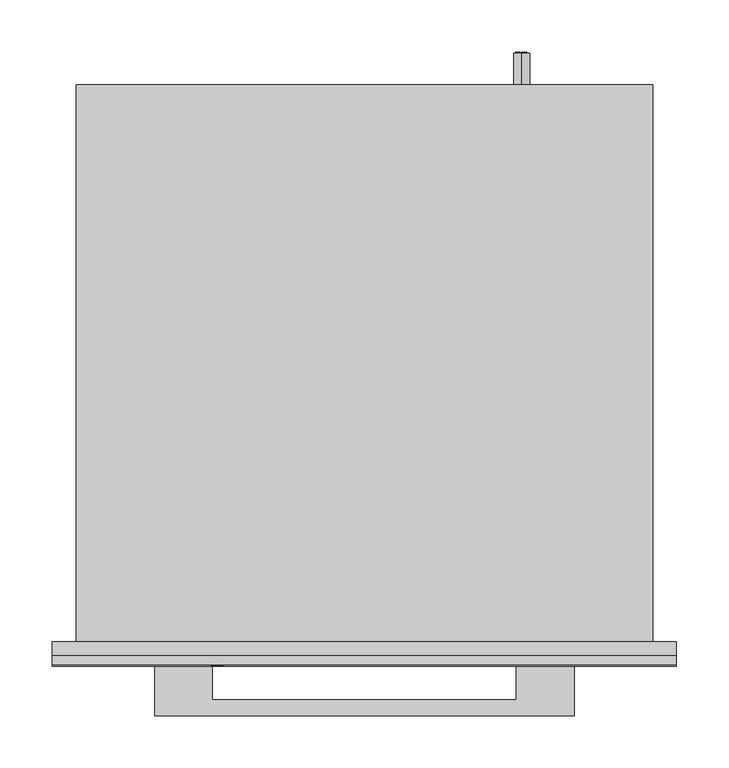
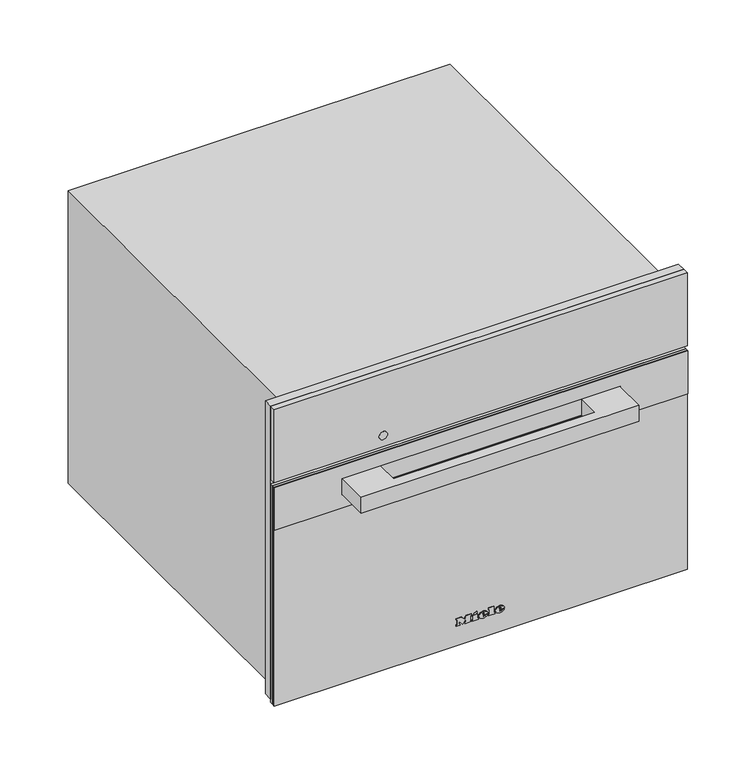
"""IFC4 building model written with IfcOpenShell, lengths in millimetres: proxy geometry, 11138050_NER_DGM7440_EDST-CLST : 23744044_NER_11138050_DGM7440_EDST-CLST."""

from ifc_helpers import new_model, si_unit, point, frame, frame_2d, origin, place, context, project, spatial, polyline, circle_curve, ellipse_curve, trimmed, segment, composite_curve, outline, extrude, faceted_brep, source, transform, mapped, element, save
from ifc_brep_helpers import plane_surface, cylinder_surface, revolved_surface, extruded_surface, advanced_brep


def specialty_equipment_aa509b27(model_context):
    return source(origin(), model_context, "Body", "SolidModel", [
        extrude(outline(polyline([(455.0, 297.5), (455.0, -297.5), (9.0, -297.5), (9.0, -272.5), (344.0, -272.5), (344.0, 272.5), (9.0, 272.5), (9.0, 297.5), (455.0, 297.5)])), frame((0.0, -13.0, 0.0), z_axis=(0.0, 1.0, 0.0), x_axis=(0.0, 0.0, 1.0)), (0.0, 0.0, 1.0), 13.0),
        advanced_brep(
        [(150.0, 561.0, 410.5), (150.0, 561.0, 395.5), (144.4098301, 561.0, 398.0), (148.5, 561.0, 398.0), (148.5, 561.0, 408.0), (147.4955303, 561.0, 408.0), (147.4955303, 561.0, 399.0), (144.0315043, 561.0, 399.0), (144.0315043, 561.0, 398.4582978), (155.0, 561.0, 398.0), (155.0, 561.0, 408.0), (150.0, 561.0, 408.0), (150.0, 561.0, 407.0), (154.0, 561.0, 407.0), (154.0, 561.0, 403.5), (151.0, 561.0, 403.5), (151.0, 561.0, 402.5), (154.0, 561.0, 402.5), (154.0, 561.0, 399.0), (150.0, 561.0, 399.0), (150.0, 561.0, 398.0), (150.0, 531.0, 395.5), (150.0, 531.0, 410.5), (155.0, 562.0, 408.0), (155.0, 562.0, 398.0), (150.0, 562.0, 398.0), (150.0, 562.0, 399.0), (154.0, 562.0, 399.0), (154.0, 562.0, 402.5), (151.0, 562.0, 402.5), (151.0, 562.0, 403.5), (154.0, 562.0, 403.5), (154.0, 562.0, 407.0), (150.0, 562.0, 407.0), (150.0, 562.0, 408.0), (148.5, 562.0, 398.0), (144.0315043, 562.0, 398.0), (144.0315043, 562.0, 399.0), (147.4955303, 562.0, 399.0), (147.4955303, 562.0, 408.0), (148.5, 562.0, 408.0), (144.0315043, 561.0, 398.0)],
        [
            (0, 1, circle_curve(frame((150.0, 561.0, 403.0), z_axis=(0.0, 1.0, 0.0), x_axis=(0.0, 0.0, 1.0)), 7.5)),
            (1, 2, circle_curve(frame((150.0, 561.0, 403.0), z_axis=(0.0, 1.0, 0.0), x_axis=(0.0, 0.0, 1.0)), 7.5)),
            (2, 3),
            (3, 4),
            (4, 5),
            (5, 6),
            (6, 7),
            (7, 8),
            (8, 0, circle_curve(frame((150.0, 561.0, 403.0), z_axis=(0.0, 1.0, 0.0), x_axis=(0.0, 0.0, 1.0)), 7.5)),
            (9, 10),
            (10, 11),
            (11, 12),
            (12, 13),
            (13, 14),
            (14, 15),
            (15, 16),
            (16, 17),
            (17, 18),
            (18, 19),
            (19, 20),
            (20, 9),
            (21, 22, circle_curve(frame((150.0, 531.0, 403.0), z_axis=(0.0, -1.0, 0.0), x_axis=(0.0, 0.0, 1.0)), 7.5)),
            (22, 21, circle_curve(frame((150.0, 531.0, 403.0), z_axis=(0.0, -1.0, 0.0), x_axis=(0.0, 0.0, 1.0)), 7.5)),
            (0, 22),
            (21, 1),
            (8, 2, circle_curve(frame((150.0, 561.0, 403.0), z_axis=(0.0, -1.0, 0.0), x_axis=(0.0, 0.0, 1.0)), 7.5)),
            (23, 24),
            (24, 25),
            (25, 26),
            (26, 27),
            (27, 28),
            (28, 29),
            (29, 30),
            (30, 31),
            (31, 32),
            (32, 33),
            (33, 34),
            (34, 23),
            (35, 36),
            (36, 37),
            (37, 38),
            (38, 39),
            (39, 40),
            (40, 35),
            (8, 41),
            (41, 2),
            (23, 10),
            (9, 24),
            (20, 25),
            (19, 26),
            (18, 27),
            (17, 28),
            (16, 29),
            (15, 30),
            (14, 31),
            (13, 32),
            (12, 33),
            (11, 34),
            (35, 3),
            (41, 36),
            (7, 37),
            (6, 38),
            (5, 39),
            (4, 40),
        ],
        [
            plane_surface(frame((150.0, 561.0, 410.5), z_axis=(0.0, 1.0, 0.0), x_axis=(1.0, 0.0, 0.0))),
            plane_surface(frame((150.0, 531.0, 410.5), z_axis=(0.0, -1.0, 0.0), x_axis=(-1.0, 0.0, 0.0))),
            cylinder_surface(frame((150.0, 561.0, 403.0), z_axis=(0.0, -1.0, 0.0), x_axis=(0.0, 0.0, 1.0)), 7.5),
            plane_surface(frame((155.0, 562.0, 408.0), z_axis=(0.0, 1.0, 0.0), x_axis=(0.0, 0.0, -1.0))),
            plane_surface(frame((155.0, 561.0, 408.0), z_axis=(0.0, -1.0, 0.0), x_axis=(0.0, 0.0, 1.0))),
            plane_surface(frame((155.0, 562.0, 408.0), z_axis=(1.0, 0.0, 0.0), x_axis=(0.0, -1.0, 0.0))),
            plane_surface(frame((155.0, 562.0, 398.0), z_axis=(0.0, 0.0, -1.0), x_axis=(0.0, -1.0, 0.0))),
            plane_surface(frame((150.0, 562.0, 398.0), z_axis=(-1.0, 0.0, 0.0), x_axis=(0.0, -1.0, 0.0))),
            plane_surface(frame((150.0, 562.0, 399.0), z_axis=(0.0, 0.0, 1.0), x_axis=(0.0, -1.0, 0.0))),
            plane_surface(frame((154.0, 562.0, 399.0), z_axis=(-1.0, 0.0, 0.0), x_axis=(0.0, -1.0, 0.0))),
            plane_surface(frame((154.0, 562.0, 402.5), z_axis=(0.0, 0.0, -1.0), x_axis=(0.0, -1.0, 0.0))),
            plane_surface(frame((151.0, 562.0, 402.5), z_axis=(-1.0, 0.0, 0.0), x_axis=(0.0, -1.0, 0.0))),
            plane_surface(frame((151.0, 562.0, 403.5), z_axis=(0.0, 0.0, 1.0), x_axis=(0.0, -1.0, 0.0))),
            plane_surface(frame((154.0, 562.0, 403.5), z_axis=(-1.0, 0.0, 0.0), x_axis=(0.0, -1.0, 0.0))),
            plane_surface(frame((154.0, 562.0, 407.0), z_axis=(0.0, 0.0, -1.0), x_axis=(0.0, -1.0, 0.0))),
            plane_surface(frame((150.0, 562.0, 407.0), z_axis=(-1.0, 0.0, 0.0), x_axis=(0.0, -1.0, 0.0))),
            plane_surface(frame((150.0, 562.0, 408.0), z_axis=(0.0, 0.0, 1.0), x_axis=(0.0, -1.0, 0.0))),
            plane_surface(frame((148.5, 562.0, 398.0), z_axis=(0.0, 0.0, -1.0), x_axis=(0.0, -1.0, 0.0))),
            plane_surface(frame((144.0315043, 562.0, 398.0), z_axis=(-1.0, 0.0, 0.0), x_axis=(0.0, -1.0, 0.0))),
            plane_surface(frame((144.0315043, 562.0, 399.0), z_axis=(0.0, 0.0, 1.0), x_axis=(0.0, -1.0, 0.0))),
            plane_surface(frame((147.4955303, 562.0, 399.0), z_axis=(-1.0, 0.0, 0.0), x_axis=(0.0, -1.0, 0.0))),
            plane_surface(frame((147.4955303, 562.0, 408.0), z_axis=(0.0, 0.0, 1.0), x_axis=(0.0, -1.0, 0.0))),
            plane_surface(frame((148.5, 562.0, 408.0), z_axis=(1.0, 0.0, 0.0), x_axis=(0.0, -1.0, 0.0))),
        ],
        [
            (0, [[1, 2, 3, 4, 5, 6, 7, 8, 9], [10, 11, 12, 13, 14, 15, 16, 17, 18, 19, 20, 21]]),
            (1, [[22, 23]]),
            (2, [[-1, 24, -22, 25]]),
            (2, [[-23, -24, -9, 26, -2, -25]]),
            (3, [[27, 28, 29, 30, 31, 32, 33, 34, 35, 36, 37, 38]]),
            (3, [[39, 40, 41, 42, 43, 44]]),
            (4, [[45, 46, -26]]),
            (5, [[-27, 47, -10, 48]]),
            (6, [[-28, -48, -21, 49]]),
            (7, [[-29, -49, -20, 50]]),
            (8, [[-30, -50, -19, 51]]),
            (9, [[-31, -51, -18, 52]]),
            (10, [[-32, -52, -17, 53]]),
            (11, [[-33, -53, -16, 54]]),
            (12, [[-34, -54, -15, 55]]),
            (13, [[-35, -55, -14, 56]]),
            (14, [[-36, -56, -13, 57]]),
            (15, [[-37, -57, -12, 58]]),
            (16, [[-38, -58, -11, -47]]),
            (17, [[-39, 59, -3, -46, 60]]),
            (18, [[-40, -60, -45, -8, 61]]),
            (19, [[-41, -61, -7, 62]]),
            (20, [[-42, -62, -6, 63]]),
            (21, [[-43, -63, -5, 64]]),
            (22, [[-44, -64, -4, -59]]),
        ],
    ),
        faceted_brep([(275.0, 531.0, 445.0), (275.0, 531.0, 0.0), (-275.0, 531.0, 0.0), (-275.0, 531.0, 445.0), (275.0, 0.0, 445.0), (-275.0, 0.0, 445.0), (-275.0, 0.0, 0.0), (275.0, 0.0, 0.0), (-272.5, 0.0, 344.0), (272.5, 0.0, 344.0), (272.5, 0.0, 8.0), (-272.5, 0.0, 8.0), (272.5, 12.0, 344.0), (-272.5, 12.0, 344.0), (-272.5, 12.0, 8.0), (272.5, 12.0, 8.0), (161.0, 12.0, 286.0), (161.0, 12.0, 58.0), (-220.0, 12.0, 58.0), (-220.0, 12.0, 286.0), (161.0, 419.0, 286.0), (-220.0, 419.0, 286.0), (-220.0, 419.0, 58.0), (161.0, 419.0, 58.0)], [[[0, 1, 2, 3]], [[4, 5, 6, 7], [8, 9, 10, 11]], [[0, 3, 5, 4]], [[3, 2, 6, 5]], [[2, 1, 7, 6]], [[1, 0, 4, 7]], [[12, 13, 14, 15], [16, 17, 18, 19]], [[13, 12, 9, 8]], [[14, 13, 8, 11]], [[15, 14, 11, 10]], [[12, 15, 10, 9]], [[20, 21, 22, 23]], [[20, 23, 17, 16]], [[23, 22, 18, 17]], [[22, 21, 19, 18]], [[21, 20, 16, 19]]]),
        advanced_brep(
        [(26.2998, -23.0, 36.7018), (26.2998, -23.0, 37.8532), (33.9264, -23.0, 37.8532), (20.6568, -23.0, 37.8532), (23.7918, -23.0, 34.0), (33.7326, -23.0, 36.7018), (30.2898, -23.0, 36.7018), (27.5766, -23.0, 35.425), (26.2998, -23.0, 39.3124), (26.2998, -23.0, 40.555), (28.2492, -23.0, 40.555), (28.2492, -23.0, 39.3124), (26.2998, -22.0, 36.7018), (27.5766, -22.0, 35.425), (30.2898, -22.0, 36.7018), (33.7326, -22.0, 36.7018), (23.7918, -22.0, 34.0), (20.6568, -22.0, 37.8532), (33.9264, -22.0, 37.8532), (26.2998, -22.0, 37.8532), (26.2998, -22.0, 39.3124), (28.2492, -22.0, 39.3124), (28.2492, -22.0, 40.555), (26.2998, -22.0, 40.555)],
        [
            (0, 1),
            (1, 2),
            (2, 3, ellipse_curve(frame((27.2916, -23.0, 37.8532), z_axis=(0.0, -1.0, 0.0), x_axis=(-1.0, 0.0, 0.0)), 6.6348, 5.4834)),
            (3, 4, circle_curve(frame((25.0686622, -23.0, 38.2408), z_axis=(0.0, -1.0, 0.0), x_axis=(0.0, 0.0, -1.0)), 4.4288556)),
            (4, 5, circle_curve(frame((27.1587808, -23.0, 41.2504), z_axis=(0.0, -1.0, 0.0), x_axis=(0.0, 0.0, -1.0)), 7.9940516)),
            (5, 6),
            (6, 7, circle_curve(frame((28.1338588, -23.0, 37.762), z_axis=(0.0, 1.0, 0.0), x_axis=(0.0, 0.0, -1.0)), 2.4025208)),
            (7, 0, circle_curve(frame((27.5766, -23.0, 36.7018), z_axis=(0.0, 1.0, 0.0), x_axis=(0.0, 0.0, -1.0)), 1.2768)),
            (8, 9),
            (9, 10, circle_curve(frame((27.2745, -23.0, 40.555), z_axis=(0.0, 1.0, 0.0), x_axis=(0.0, 0.0, -1.0)), 0.9747)),
            (10, 11),
            (11, 8),
            (12, 13, circle_curve(frame((27.5766, -22.0, 36.7018), z_axis=(0.0, -1.0, 0.0), x_axis=(0.0, 0.0, -1.0)), 1.2768)),
            (13, 14, circle_curve(frame((28.1338588, -22.0, 37.762), z_axis=(0.0, -1.0, 0.0), x_axis=(0.0, 0.0, -1.0)), 2.4025208)),
            (14, 15),
            (15, 16, circle_curve(frame((27.1587808, -22.0, 41.2504), z_axis=(0.0, 1.0, 0.0), x_axis=(0.0, 0.0, -1.0)), 7.9940516)),
            (16, 17, circle_curve(frame((25.0686622, -22.0, 38.2408), z_axis=(0.0, 1.0, 0.0), x_axis=(0.0, 0.0, -1.0)), 4.4288556)),
            (17, 18, ellipse_curve(frame((27.2916, -22.0, 37.8532), z_axis=(0.0, 1.0, 0.0), x_axis=(-1.0, 0.0, 0.0)), 6.6348, 5.4834)),
            (18, 19),
            (19, 12),
            (20, 21),
            (21, 22),
            (22, 23, circle_curve(frame((27.2745, -22.0, 40.555), z_axis=(0.0, -1.0, 0.0), x_axis=(0.0, 0.0, -1.0)), 0.9747)),
            (23, 20),
            (0, 12),
            (19, 1),
            (18, 2),
            (5, 15),
            (14, 6),
            (17, 3),
            (13, 7),
            (16, 4),
            (8, 20),
            (23, 9),
            (22, 10),
            (21, 11),
        ],
        [
            plane_surface(frame((26.2998, -23.0, 37.8532), z_axis=(0.0, -1.0, 0.0), x_axis=(0.0, 0.0, 1.0))),
            plane_surface(frame((26.2998, -22.0, 37.8532), z_axis=(0.0, 1.0, 0.0), x_axis=(0.0, 0.0, -1.0))),
            plane_surface(frame((26.2998, -23.0, 36.7018), z_axis=(1.0, 0.0, 0.0), x_axis=(0.0, 1.0, 0.0))),
            plane_surface(frame((26.2998, -23.0, 37.8532), z_axis=(0.0, 0.0, -1.0), x_axis=(0.0, 1.0, 0.0))),
            plane_surface(frame((33.7326, -23.0, 36.7018), z_axis=(0.0, 0.0, 1.0), x_axis=(0.0, 1.0, 0.0))),
            extruded_surface(trimmed(ellipse_curve(frame((27.2916, -21.0, 37.8532), z_axis=(0.0, -1.0, 0.0), x_axis=(-1.0, 0.0, 0.0)), 6.6348, 5.4834), [point((33.9264, -21.0, 37.8532))], [point((20.6568, -21.0, 37.8532))], True, "CARTESIAN"), (0.0, -1.0, 0.0), 1.0),
            revolved_surface(polyline([(28.1338588, -22.0, 35.3594792), (28.1338588, -23.0, 35.3594792)]), (28.1338588, -22.0, 37.762), (0.0, 1.0, 0.0)),
            revolved_surface(polyline([(27.5766, -22.0, 35.425), (27.5766, -23.0, 35.425)]), (27.5766, -22.0, 36.7018), (0.0, 1.0, 0.0)),
            cylinder_surface(frame((25.0686622, -22.0, 38.2408), z_axis=(0.0, -1.0, 0.0), x_axis=(0.0, 0.0, -1.0)), 4.4288556),
            cylinder_surface(frame((27.1587808, -22.0, 41.2504), z_axis=(0.0, -1.0, 0.0), x_axis=(0.0, 0.0, -1.0)), 7.9940516),
            plane_surface(frame((26.2998, -23.0, 39.3124), z_axis=(1.0, 0.0, 0.0), x_axis=(0.0, 1.0, 0.0))),
            revolved_surface(polyline([(27.2745, -22.0, 39.5803), (27.2745, -23.0, 39.5803)]), (27.2745, -22.0, 40.555), (0.0, 1.0, 0.0)),
            plane_surface(frame((28.2492, -23.0, 40.555), z_axis=(-1.0, 0.0, 0.0), x_axis=(0.0, 1.0, 0.0))),
            plane_surface(frame((28.2492, -23.0, 39.3124), z_axis=(0.0, 0.0, 1.0), x_axis=(0.0, 1.0, 0.0))),
        ],
        [
            (0, [[1, 2, 3, 4, 5, 6, 7, 8], [9, 10, 11, 12]]),
            (1, [[13, 14, 15, 16, 17, 18, 19, 20], [21, 22, 23, 24]]),
            (2, [[-1, 25, -20, 26]]),
            (3, [[-2, -26, -19, 27]]),
            (4, [[-6, 28, -15, 29]]),
            (5, [[-3, -27, -18, 30]]),
            (6, [[-7, -29, -14, 31]]),
            (7, [[-8, -31, -13, -25]]),
            (8, [[-4, -30, -17, 32]]),
            (9, [[-5, -32, -16, -28]]),
            (10, [[-9, 33, -24, 34]]),
            (11, [[-10, -34, -23, 35]]),
            (12, [[-11, -35, -22, 36]]),
            (13, [[-12, -36, -21, -33]]),
        ],
    ),
        advanced_brep(
        [(2.508, -23.0, 36.7018), (2.508, -23.0, 37.8532), (10.1346, -23.0, 37.8532), (-3.135, -23.0, 37.8532), (0.0, -23.0, 34.0), (9.9408, -23.0, 36.7018), (6.498, -23.0, 36.7018), (3.7848, -23.0, 35.425), (2.508, -23.0, 39.3124), (2.508, -23.0, 40.555), (4.4574, -23.0, 40.555), (4.4574, -23.0, 39.3124), (2.508, -22.0, 36.7018), (3.7848, -22.0, 35.425), (6.498, -22.0, 36.7018), (9.9408, -22.0, 36.7018), (0.0, -22.0, 34.0), (-3.135, -22.0, 37.8532), (10.1346, -22.0, 37.8532), (2.508, -22.0, 37.8532), (2.508, -22.0, 39.3124), (4.4574, -22.0, 39.3124), (4.4574, -22.0, 40.555), (2.508, -22.0, 40.555)],
        [
            (0, 1),
            (1, 2),
            (2, 3, ellipse_curve(frame((3.4998, -23.0, 37.8532), z_axis=(0.0, -1.0, 0.0), x_axis=(-1.0, 0.0, 0.0)), 6.6348, 5.4834)),
            (3, 4, circle_curve(frame((1.2768622, -23.0, 38.2408), z_axis=(0.0, -1.0, 0.0), x_axis=(0.0, 0.0, -1.0)), 4.4288556)),
            (4, 5, circle_curve(frame((3.3669808, -23.0, 41.2504), z_axis=(0.0, -1.0, 0.0), x_axis=(0.0, 0.0, -1.0)), 7.9940516)),
            (5, 6),
            (6, 7, circle_curve(frame((4.3420588, -23.0, 37.762), z_axis=(0.0, 1.0, 0.0), x_axis=(0.0, 0.0, -1.0)), 2.4025208)),
            (7, 0, circle_curve(frame((3.7848, -23.0, 36.7018), z_axis=(0.0, 1.0, 0.0), x_axis=(0.0, 0.0, -1.0)), 1.2768)),
            (8, 9),
            (9, 10, circle_curve(frame((3.4827, -23.0, 40.555), z_axis=(0.0, 1.0, 0.0), x_axis=(0.0, 0.0, -1.0)), 0.9747)),
            (10, 11),
            (11, 8),
            (12, 13, circle_curve(frame((3.7848, -22.0, 36.7018), z_axis=(0.0, -1.0, 0.0), x_axis=(0.0, 0.0, -1.0)), 1.2768)),
            (13, 14, circle_curve(frame((4.3420588, -22.0, 37.762), z_axis=(0.0, -1.0, 0.0), x_axis=(0.0, 0.0, -1.0)), 2.4025208)),
            (14, 15),
            (15, 16, circle_curve(frame((3.3669808, -22.0, 41.2504), z_axis=(0.0, 1.0, 0.0), x_axis=(0.0, 0.0, -1.0)), 7.9940516)),
            (16, 17, circle_curve(frame((1.2768622, -22.0, 38.2408), z_axis=(0.0, 1.0, 0.0), x_axis=(0.0, 0.0, -1.0)), 4.4288556)),
            (17, 18, ellipse_curve(frame((3.4998, -22.0, 37.8532), z_axis=(0.0, 1.0, 0.0), x_axis=(-1.0, 0.0, 0.0)), 6.6348, 5.4834)),
            (18, 19),
            (19, 12),
            (20, 21),
            (21, 22),
            (22, 23, circle_curve(frame((3.4827, -22.0, 40.555), z_axis=(0.0, -1.0, 0.0), x_axis=(0.0, 0.0, -1.0)), 0.9747)),
            (23, 20),
            (0, 12),
            (19, 1),
            (18, 2),
            (5, 15),
            (14, 6),
            (17, 3),
            (13, 7),
            (16, 4),
            (8, 20),
            (23, 9),
            (22, 10),
            (21, 11),
        ],
        [
            plane_surface(frame((2.508, -23.0, 37.8532), z_axis=(0.0, -1.0, 0.0), x_axis=(0.0, 0.0, 1.0))),
            plane_surface(frame((2.508, -22.0, 37.8532), z_axis=(0.0, 1.0, 0.0), x_axis=(0.0, 0.0, -1.0))),
            plane_surface(frame((2.508, -23.0, 36.7018), z_axis=(1.0, 0.0, 0.0), x_axis=(0.0, 1.0, 0.0))),
            plane_surface(frame((2.508, -23.0, 37.8532), z_axis=(0.0, 0.0, -1.0), x_axis=(0.0, 1.0, 0.0))),
            plane_surface(frame((9.9408, -23.0, 36.7018), z_axis=(0.0, 0.0, 1.0), x_axis=(0.0, 1.0, 0.0))),
            extruded_surface(trimmed(ellipse_curve(frame((3.4998, -21.0, 37.8532), z_axis=(0.0, -1.0, 0.0), x_axis=(-1.0, 0.0, 0.0)), 6.6348, 5.4834), [point((10.1346, -21.0, 37.8532))], [point((-3.135, -21.0, 37.8532))], True, "CARTESIAN"), (0.0, -1.0, 0.0), 1.0),
            revolved_surface(polyline([(4.3420588, -22.0, 35.3594792), (4.3420588, -23.0, 35.3594792)]), (4.3420588, -22.0, 37.762), (0.0, 1.0, 0.0)),
            revolved_surface(polyline([(3.7848, -22.0, 35.425), (3.7848, -23.0, 35.425)]), (3.7848, -22.0, 36.7018), (0.0, 1.0, 0.0)),
            cylinder_surface(frame((1.2768622, -22.0, 38.2408), z_axis=(0.0, -1.0, 0.0), x_axis=(0.0, 0.0, -1.0)), 4.4288556),
            cylinder_surface(frame((3.3669808, -22.0, 41.2504), z_axis=(0.0, -1.0, 0.0), x_axis=(0.0, 0.0, -1.0)), 7.9940516),
            plane_surface(frame((2.508, -23.0, 39.3124), z_axis=(1.0, 0.0, 0.0), x_axis=(0.0, 1.0, 0.0))),
            revolved_surface(polyline([(3.4827, -22.0, 39.5803), (3.4827, -23.0, 39.5803)]), (3.4827, -22.0, 40.555), (0.0, 1.0, 0.0)),
            plane_surface(frame((4.4574, -23.0, 40.555), z_axis=(-1.0, 0.0, 0.0), x_axis=(0.0, 1.0, 0.0))),
            plane_surface(frame((4.4574, -23.0, 39.3124), z_axis=(0.0, 0.0, 1.0), x_axis=(0.0, 1.0, 0.0))),
        ],
        [
            (0, [[1, 2, 3, 4, 5, 6, 7, 8], [9, 10, 11, 12]]),
            (1, [[13, 14, 15, 16, 17, 18, 19, 20], [21, 22, 23, 24]]),
            (2, [[-1, 25, -20, 26]]),
            (3, [[-2, -26, -19, 27]]),
            (4, [[-6, 28, -15, 29]]),
            (5, [[-3, -27, -18, 30]]),
            (6, [[-7, -29, -14, 31]]),
            (7, [[-8, -31, -13, -25]]),
            (8, [[-4, -30, -17, 32]]),
            (9, [[-5, -32, -16, -28]]),
            (10, [[-9, 33, -24, 34]]),
            (11, [[-10, -34, -23, 35]]),
            (12, [[-11, -35, -22, 36]]),
            (13, [[-12, -36, -21, -33]]),
        ],
    ),
        extrude(outline(polyline([(44.7274, -9.9522), (42.8806, -9.0858), (44.6818, -5.2212), (46.5286, -6.0762), (44.7274, -9.9522)])), frame((0.0, -23.0, 0.0), z_axis=(0.0, 1.0, 0.0), x_axis=(0.0, 0.0, 1.0)), (0.0, 0.0, 1.0), 1.0),
        extrude(outline(polyline([(42.6298, -12.768), (40.5892, -12.768), (40.5892, -11.4114), (35.9152, -11.4114), (35.9152, -12.768), (34.0, -12.768), (34.0, -3.7734), (35.9152, -3.7734), (35.9152, -5.0958), (42.6298, -5.0958), (42.6298, -12.768)])), frame((0.0, -23.0, 0.0), z_axis=(0.0, 1.0, 0.0), x_axis=(0.0, 0.0, 1.0)), (0.0, 0.0, 1.0), 1.0),
        extrude(outline(polyline([(43.5418, 10.773), (43.5418, 12.141), (35.9152, 12.141), (35.9152, 10.773), (34.0, 10.773), (34.0, 20.0184), (35.9152, 20.0184), (35.9152, 18.6162), (45.4, 18.6162), (45.4, 10.773), (43.5418, 10.773)])), frame((0.0, -23.0, 0.0), z_axis=(0.0, 1.0, 0.0), x_axis=(0.0, 0.0, 1.0)), (0.0, 0.0, 1.0), 1.0),
        extrude(outline(polyline([(43.5418, -35.4882), (43.5418, -34.1088), (35.9152, -34.1088), (35.9152, -35.4882), (34.0, -35.4882), (34.0, -30.4722), (35.9152, -30.4722), (35.9152, -31.8402), (40.7429247, -31.8402), (34.0, -26.7444), (40.9402223, -21.6258), (35.9152, -21.6258), (35.9152, -23.028), (34.0, -23.028), (34.0, -13.9308), (35.9152, -13.9308), (35.9152, -15.3786), (43.5418, -15.3786), (43.5418, -13.9308), (45.4, -13.9308), (45.4, -20.8734), (41.125, -24.2022), (45.4, -27.5424), (45.4, -35.4882), (43.5418, -35.4882)])), frame((0.0, -23.0, 0.0), z_axis=(0.0, 1.0, 0.0), x_axis=(0.0, 0.0, 1.0)), (0.0, 0.0, 1.0), 1.0),
        extrude(outline(polyline([(297.5, -22.0), (-297.5, -22.0), (-297.5, -13.0), (297.5, -13.0), (297.5, -22.0)])), frame((0.0, 0.0, 344.0), z_axis=(0.0, 0.0, 1.0), x_axis=(1.0, 0.0, 0.0)), (0.0, 0.0, 1.0), 111.0),
        extrude(outline(composite_curve([segment(trimmed(circle_curve(frame_2d((361.0, -140.5745637)), 6.0), [point((361.0, -146.5745637))], [point((361.0, -134.5745637))], False, "CARTESIAN"), True, "CONTINUOUS"), segment(trimmed(circle_curve(frame_2d((361.0, -140.5745637)), 6.0), [point((361.0, -134.5745637))], [point((361.0, -146.5745637))], False, "CARTESIAN"), True, "CONTINUOUS")], self_intersect=False)), frame((0.0, -22.5, 0.0), z_axis=(0.0, 1.0, 0.0), x_axis=(0.0, 0.0, 1.0)), (0.0, 0.0, 1.0), 1.0),
        extrude(outline(polyline([(297.5, -18.0), (-297.5, -18.0), (-297.5, -13.0), (297.5, -13.0), (297.5, -18.0)])), frame((0.0, 0.0, 4.0), z_axis=(0.0, 0.0, 1.0), x_axis=(1.0, 0.0, 0.0)), (0.0, 0.0, 1.0), 333.0),
        extrude(outline(polyline([(-297.5, -18.0), (297.5, -18.0), (297.5, -22.0), (-297.5, -22.0), (-297.5, -18.0)])), frame((0.0, 0.0, 4.0), z_axis=(0.0, 0.0, 1.0), x_axis=(1.0, 0.0, 0.0)), (0.0, 0.0, 1.0), 333.0),
        extrude(outline(polyline([(-200.0, -70.3), (-200.0, -22.0), (-145.0, -22.0), (-145.0, -55.3), (145.0, -55.3), (145.0, -22.0), (200.0, -22.0), (200.0, -70.3), (-200.0, -70.3)])), frame((0.0, 0.0, 292.5), z_axis=(0.0, 0.0, 1.0), x_axis=(1.0, 0.0, 0.0)), (0.0, 0.0, 1.0), 24.0),
        extrude(outline(polyline([(337.0, 297.5), (337.0, -297.5), (272.0, -297.5), (272.0, 297.5), (337.0, 297.5)]), holes=[polyline([(317.0, -200.5), (317.0, 200.5), (292.0, 200.5), (292.0, -200.5), (317.0, -200.5)])]), frame((0.0, -23.3, 0.0), z_axis=(0.0, 1.0, 0.0), x_axis=(0.0, 0.0, 1.0)), (0.0, 0.0, 1.0), 1.3),
    ])


if __name__ == "__main__":
    model = new_model("IFC4")
    model_context = context("Model", 3, world=origin())
    ifc_project = project(units=[si_unit("LENGTHUNIT", "METRE", prefix="MILLI")], contexts=[model_context])
    site = spatial("IfcSite", under=ifc_project)
    building = spatial("IfcBuilding", under=site)
    placement = place(None, origin())
    specialty_equipment_shape = specialty_equipment_aa509b27(model_context)
    element("IfcBuildingElementProxy", 1, Name="11138050_NER_DGM7440_EDST-CLST : 23744044_NER_11138050_DGM7440_EDST-CLST", ObjectType="11138050_NER_DGM7440_EDST-CLST : 23744044_NER_11138050_DGM7440_EDST-CLST", at=placement, inside=building, context=model_context, shape_type="MappedRepresentation", body=[
        mapped(specialty_equipment_shape, transform((0.0, 0.0, 0.0), x_axis=(1.0, 0.0, 0.0), y_axis=(0.0, 1.0, 0.0), z_axis=(0.0, 0.0, 1.0))),
    ])
    save(model, "model.ifc")
